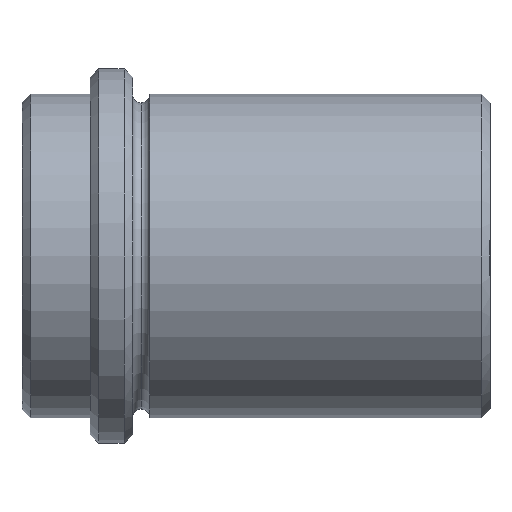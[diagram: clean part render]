
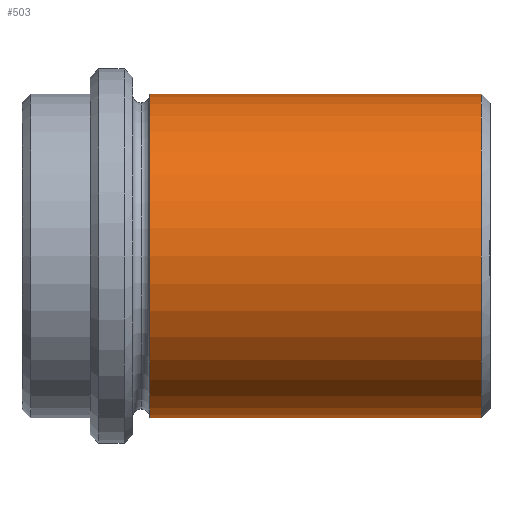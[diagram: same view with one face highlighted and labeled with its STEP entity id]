
A CAD part, left-side view. The second image highlights one B-rep face of the part: STEP entity #503.
In plain terms, the highlighted cylindrical face has radius 19 mm (diameter 38 mm), a partial arc.
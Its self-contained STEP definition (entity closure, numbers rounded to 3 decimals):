
#315=CARTESIAN_POINT('Vertex',(0.,1.,19.)) ;
#322=CARTESIAN_POINT('Vertex',(0.,1.,-19.)) ;
#351=CARTESIAN_POINT('Axis2P3D Location',(0.,1.,0.)) ;
#355=CARTESIAN_POINT('Vertex',(-19.,1.,0.)) ;
#358=CARTESIAN_POINT('Axis2P3D Location',(0.,1.,0.)) ;
#443=CARTESIAN_POINT('Line Origine',(0.,0.,-19.)) ;
#447=CARTESIAN_POINT('Vertex',(0.,40.,-19.)) ;
#461=CARTESIAN_POINT('Vertex',(0.,40.,19.)) ;
#464=CARTESIAN_POINT('Line Origine',(0.,0.,19.)) ;
#478=CARTESIAN_POINT('Axis2P3D Location',(0.,0.,0.)) ;
#483=CARTESIAN_POINT('Axis2P3D Location',(0.,40.,0.)) ;
#487=CARTESIAN_POINT('Vertex',(-19.,40.,0.)) ;
#490=CARTESIAN_POINT('Axis2P3D Location',(0.,40.,0.)) ;
#352=DIRECTION('Axis2P3D Direction',(-0.,1.,0.)) ;
#359=DIRECTION('Axis2P3D Direction',(-0.,1.,0.)) ;
#444=DIRECTION('Vector Direction',(0.,1.,0.)) ;
#465=DIRECTION('Vector Direction',(0.,1.,0.)) ;
#479=DIRECTION('Axis2P3D Direction',(0.,1.,0.)) ;
#480=DIRECTION('Axis2P3D XDirection',(0.,0.,-1.)) ;
#484=DIRECTION('Axis2P3D Direction',(0.,1.,0.)) ;
#491=DIRECTION('Axis2P3D Direction',(0.,1.,0.)) ;
#353=AXIS2_PLACEMENT_3D('Circle Axis2P3D',#351,#352,$) ;
#360=AXIS2_PLACEMENT_3D('Circle Axis2P3D',#358,#359,$) ;
#481=AXIS2_PLACEMENT_3D('Cylinder Axis2P3D',#478,#479,#480) ;
#485=AXIS2_PLACEMENT_3D('Circle Axis2P3D',#483,#484,$) ;
#492=AXIS2_PLACEMENT_3D('Circle Axis2P3D',#490,#491,$) ;
#496=ORIENTED_EDGE('',*,*,#468,.T.) ;
#497=ORIENTED_EDGE('',*,*,#489,.T.) ;
#498=ORIENTED_EDGE('',*,*,#494,.T.) ;
#499=ORIENTED_EDGE('',*,*,#449,.T.) ;
#500=ORIENTED_EDGE('',*,*,#362,.F.) ;
#501=ORIENTED_EDGE('',*,*,#357,.F.) ;
#445=VECTOR('Line Direction',#444,1.) ;
#466=VECTOR('Line Direction',#465,1.) ;
#503=ADVANCED_FACE('CF 439 25x55',(#502),#482,.T.) ;
#354=CIRCLE('generated circle',#353,19.) ;
#361=CIRCLE('generated circle',#360,19.) ;
#486=CIRCLE('generated circle',#485,19.) ;
#493=CIRCLE('generated circle',#492,19.) ;
#482=CYLINDRICAL_SURFACE('generated cylinder',#481,19.) ;
#357=EDGE_CURVE('',#316,#356,#354,.F.) ;
#362=EDGE_CURVE('',#356,#323,#361,.F.) ;
#449=EDGE_CURVE('',#448,#323,#446,.F.) ;
#468=EDGE_CURVE('',#316,#462,#467,.T.) ;
#489=EDGE_CURVE('',#462,#488,#486,.F.) ;
#494=EDGE_CURVE('',#488,#448,#493,.F.) ;
#495=EDGE_LOOP('',(#496,#497,#498,#499,#500,#501)) ;
#502=FACE_OUTER_BOUND('',#495,.T.) ;
#446=LINE('Line',#443,#445) ;
#467=LINE('Line',#464,#466) ;
#316=VERTEX_POINT('',#315) ;
#323=VERTEX_POINT('',#322) ;
#356=VERTEX_POINT('',#355) ;
#448=VERTEX_POINT('',#447) ;
#462=VERTEX_POINT('',#461) ;
#488=VERTEX_POINT('',#487) ;
